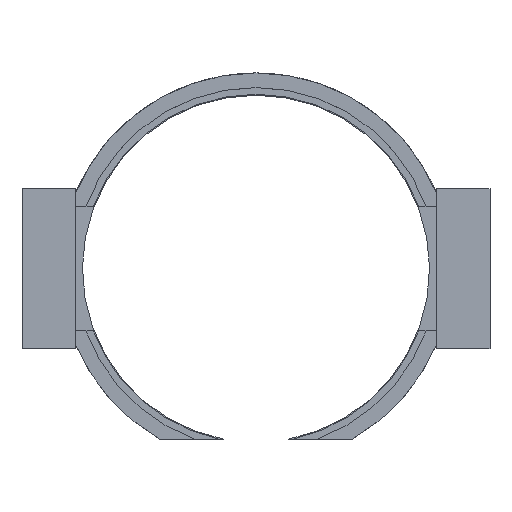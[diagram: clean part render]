
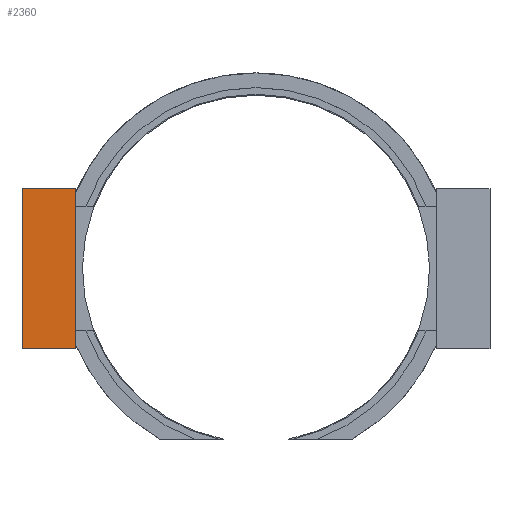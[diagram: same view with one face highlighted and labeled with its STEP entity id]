
A CAD part, top view. The second image highlights one B-rep face of the part: STEP entity #2360.
In plain terms, the highlighted planar face has unit normal (0, 0, 1).
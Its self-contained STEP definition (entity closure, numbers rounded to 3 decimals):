
#190 = PLANE('',#191);
#191 = AXIS2_PLACEMENT_3D('',#192,#193,#194);
#192 = CARTESIAN_POINT('',(-20.3,31.5,8.35));
#193 = DIRECTION('',(1.,0.,0.));
#194 = DIRECTION('',(0.,0.,1.));
#594 = EDGE_CURVE('',#595,#597,#599,.T.);
#595 = VERTEX_POINT('',#596);
#596 = CARTESIAN_POINT('',(-20.3,31.5,9.1));
#597 = VERTEX_POINT('',#598);
#598 = CARTESIAN_POINT('',(-20.3,49.5,9.1));
#599 = SURFACE_CURVE('',#600,(#604,#611),.PCURVE_S1.);
#600 = LINE('',#601,#602);
#601 = CARTESIAN_POINT('',(-20.3,31.5,9.1));
#602 = VECTOR('',#603,1.);
#603 = DIRECTION('',(0.,1.,0.));
#604 = PCURVE('',#190,#605);
#605 = DEFINITIONAL_REPRESENTATION('',(#606),#610);
#606 = LINE('',#607,#608);
#607 = CARTESIAN_POINT('',(0.75,0.));
#608 = VECTOR('',#609,1.);
#609 = DIRECTION('',(0.,-1.));
#610 = ( GEOMETRIC_REPRESENTATION_CONTEXT(2) 
PARAMETRIC_REPRESENTATION_CONTEXT() REPRESENTATION_CONTEXT('2D SPACE',''
  ) );
#611 = PCURVE('',#612,#617);
#612 = PLANE('',#613);
#613 = AXIS2_PLACEMENT_3D('',#614,#615,#616);
#614 = CARTESIAN_POINT('',(-26.3,31.5,9.1));
#615 = DIRECTION('',(0.,0.,1.));
#616 = DIRECTION('',(1.,0.,-0.));
#617 = DEFINITIONAL_REPRESENTATION('',(#618),#622);
#618 = LINE('',#619,#620);
#619 = CARTESIAN_POINT('',(6.,0.));
#620 = VECTOR('',#621,1.);
#621 = DIRECTION('',(0.,1.));
#622 = ( GEOMETRIC_REPRESENTATION_CONTEXT(2) 
PARAMETRIC_REPRESENTATION_CONTEXT() REPRESENTATION_CONTEXT('2D SPACE',''
  ) );
#640 = PLANE('',#641);
#641 = AXIS2_PLACEMENT_3D('',#642,#643,#644);
#642 = CARTESIAN_POINT('',(-26.3,31.5,8.35));
#643 = DIRECTION('',(0.,1.,0.));
#644 = DIRECTION('',(0.,-0.,1.));
#825 = PLANE('',#826);
#826 = AXIS2_PLACEMENT_3D('',#827,#828,#829);
#827 = CARTESIAN_POINT('',(-26.3,49.5,8.35));
#828 = DIRECTION('',(0.,1.,0.));
#829 = DIRECTION('',(0.,-0.,1.));
#879 = PLANE('',#880);
#880 = AXIS2_PLACEMENT_3D('',#881,#882,#883);
#881 = CARTESIAN_POINT('',(-26.3,31.5,8.35));
#882 = DIRECTION('',(1.,0.,0.));
#883 = DIRECTION('',(0.,0.,1.));
#2360 = ADVANCED_FACE('',(#2361),#612,.T.);
#2361 = FACE_BOUND('',#2362,.T.);
#2362 = EDGE_LOOP('',(#2363,#2388,#2409,#2410));
#2363 = ORIENTED_EDGE('',*,*,#2364,.F.);
#2364 = EDGE_CURVE('',#2365,#2367,#2369,.T.);
#2365 = VERTEX_POINT('',#2366);
#2366 = CARTESIAN_POINT('',(-26.3,31.5,9.1));
#2367 = VERTEX_POINT('',#2368);
#2368 = CARTESIAN_POINT('',(-26.3,49.5,9.1));
#2369 = SURFACE_CURVE('',#2370,(#2374,#2381),.PCURVE_S1.);
#2370 = LINE('',#2371,#2372);
#2371 = CARTESIAN_POINT('',(-26.3,31.5,9.1));
#2372 = VECTOR('',#2373,1.);
#2373 = DIRECTION('',(0.,1.,0.));
#2374 = PCURVE('',#612,#2375);
#2375 = DEFINITIONAL_REPRESENTATION('',(#2376),#2380);
#2376 = LINE('',#2377,#2378);
#2377 = CARTESIAN_POINT('',(0.,0.));
#2378 = VECTOR('',#2379,1.);
#2379 = DIRECTION('',(0.,1.));
#2380 = ( GEOMETRIC_REPRESENTATION_CONTEXT(2) 
PARAMETRIC_REPRESENTATION_CONTEXT() REPRESENTATION_CONTEXT('2D SPACE',''
  ) );
#2381 = PCURVE('',#879,#2382);
#2382 = DEFINITIONAL_REPRESENTATION('',(#2383),#2387);
#2383 = LINE('',#2384,#2385);
#2384 = CARTESIAN_POINT('',(0.75,0.));
#2385 = VECTOR('',#2386,1.);
#2386 = DIRECTION('',(0.,-1.));
#2387 = ( GEOMETRIC_REPRESENTATION_CONTEXT(2) 
PARAMETRIC_REPRESENTATION_CONTEXT() REPRESENTATION_CONTEXT('2D SPACE',''
  ) );
#2388 = ORIENTED_EDGE('',*,*,#2389,.T.);
#2389 = EDGE_CURVE('',#2365,#595,#2390,.T.);
#2390 = SURFACE_CURVE('',#2391,(#2395,#2402),.PCURVE_S1.);
#2391 = LINE('',#2392,#2393);
#2392 = CARTESIAN_POINT('',(-26.3,31.5,9.1));
#2393 = VECTOR('',#2394,1.);
#2394 = DIRECTION('',(1.,0.,0.));
#2395 = PCURVE('',#612,#2396);
#2396 = DEFINITIONAL_REPRESENTATION('',(#2397),#2401);
#2397 = LINE('',#2398,#2399);
#2398 = CARTESIAN_POINT('',(0.,0.));
#2399 = VECTOR('',#2400,1.);
#2400 = DIRECTION('',(1.,0.));
#2401 = ( GEOMETRIC_REPRESENTATION_CONTEXT(2) 
PARAMETRIC_REPRESENTATION_CONTEXT() REPRESENTATION_CONTEXT('2D SPACE',''
  ) );
#2402 = PCURVE('',#640,#2403);
#2403 = DEFINITIONAL_REPRESENTATION('',(#2404),#2408);
#2404 = LINE('',#2405,#2406);
#2405 = CARTESIAN_POINT('',(0.75,0.));
#2406 = VECTOR('',#2407,1.);
#2407 = DIRECTION('',(0.,1.));
#2408 = ( GEOMETRIC_REPRESENTATION_CONTEXT(2) 
PARAMETRIC_REPRESENTATION_CONTEXT() REPRESENTATION_CONTEXT('2D SPACE',''
  ) );
#2409 = ORIENTED_EDGE('',*,*,#594,.T.);
#2410 = ORIENTED_EDGE('',*,*,#2411,.F.);
#2411 = EDGE_CURVE('',#2367,#597,#2412,.T.);
#2412 = SURFACE_CURVE('',#2413,(#2417,#2424),.PCURVE_S1.);
#2413 = LINE('',#2414,#2415);
#2414 = CARTESIAN_POINT('',(-26.3,49.5,9.1));
#2415 = VECTOR('',#2416,1.);
#2416 = DIRECTION('',(1.,0.,0.));
#2417 = PCURVE('',#612,#2418);
#2418 = DEFINITIONAL_REPRESENTATION('',(#2419),#2423);
#2419 = LINE('',#2420,#2421);
#2420 = CARTESIAN_POINT('',(0.,18.));
#2421 = VECTOR('',#2422,1.);
#2422 = DIRECTION('',(1.,0.));
#2423 = ( GEOMETRIC_REPRESENTATION_CONTEXT(2) 
PARAMETRIC_REPRESENTATION_CONTEXT() REPRESENTATION_CONTEXT('2D SPACE',''
  ) );
#2424 = PCURVE('',#825,#2425);
#2425 = DEFINITIONAL_REPRESENTATION('',(#2426),#2430);
#2426 = LINE('',#2427,#2428);
#2427 = CARTESIAN_POINT('',(0.75,0.));
#2428 = VECTOR('',#2429,1.);
#2429 = DIRECTION('',(0.,1.));
#2430 = ( GEOMETRIC_REPRESENTATION_CONTEXT(2) 
PARAMETRIC_REPRESENTATION_CONTEXT() REPRESENTATION_CONTEXT('2D SPACE',''
  ) );
